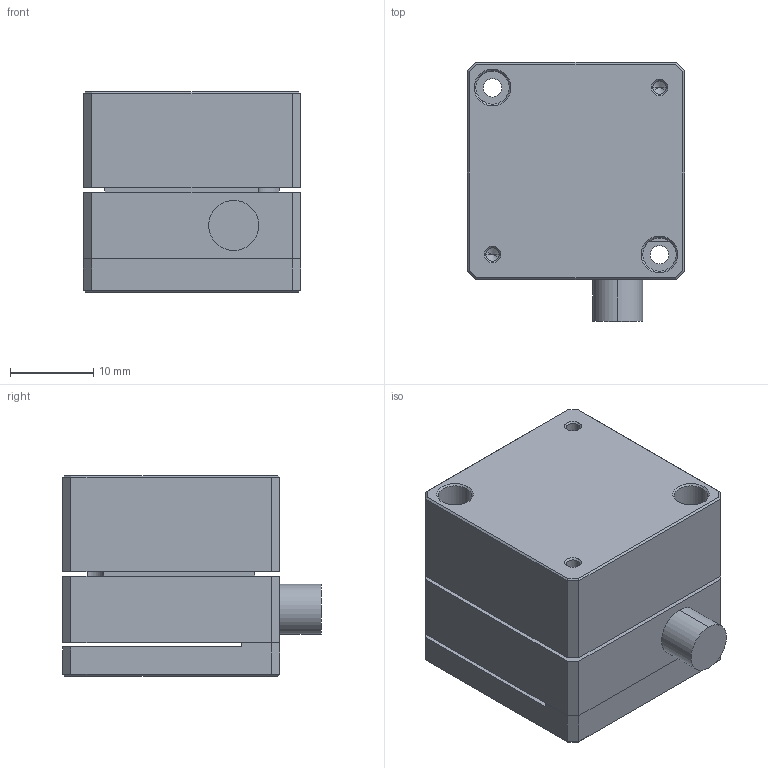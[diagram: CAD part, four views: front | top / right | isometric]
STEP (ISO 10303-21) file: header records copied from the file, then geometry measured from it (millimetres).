
FILE_DESCRIPTION (( 'STEP AP203' ), '1' );
FILE_NAME ('P13.XYZ30S-B1三维外形图.STEP', '2024-03-08T01:29:44', ( '' ), ( '' ), 'SwSTEP 2.0', 'SolidWorks 2016', '' );
FILE_SCHEMA (( 'CONFIG_CONTROL_DESIGN' ));
Length unit declared in the file: millimetre
Products named in the file (1): P13.XYZ30S-B1三维外形图
Bounding box: 26 x 31 x 24 mm (x, y, z)
Volume: 15367.2 mm3; surface area: 6163.5 mm2
Topology: 2 solids, 2 shells, 83 faces, 208 edges, 126 vertices
Faces by surface type: plane 53, cone 16, cylinder 14
Entity records: 2505 total; most frequent: DIRECTION 420, CARTESIAN_POINT 414, ORIENTED_EDGE 408, EDGE_CURVE 204, VECTOR 156, LINE 156, AXIS2_PLACEMENT_3D 132, VERTEX_POINT 126
